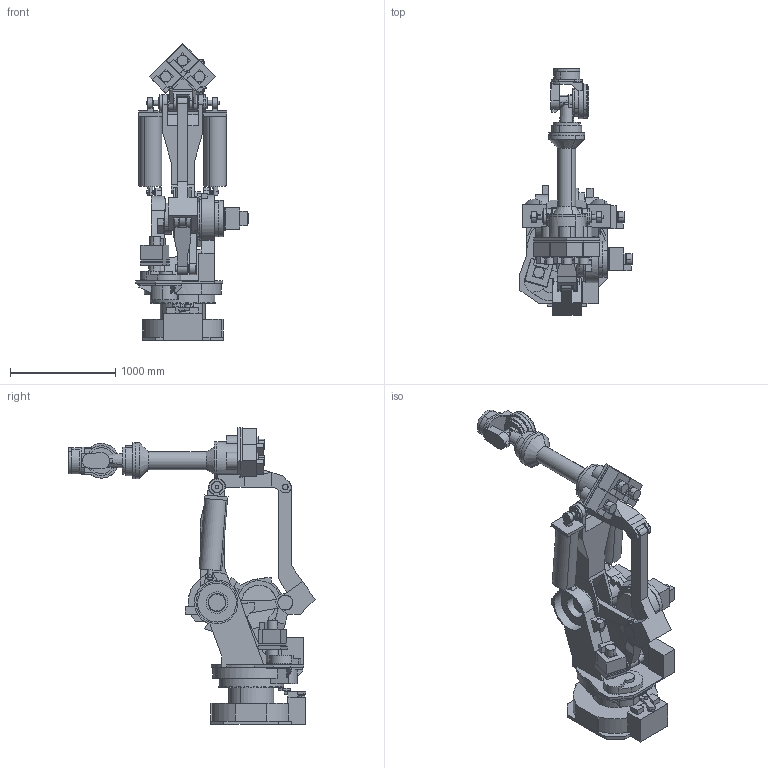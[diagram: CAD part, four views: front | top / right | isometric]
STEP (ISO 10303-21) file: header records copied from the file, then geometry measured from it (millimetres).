
FILE_DESCRIPTION(('CATIA V5 STEP Exchange'),'2;1');
FILE_NAME('G:\【K-ROSET】\K-ROSET_モデル\ロボット\※ロボット\※M\MX500N-A001\MX500N_簡素化\MX500N catiaASSY.stp','2013-05-07T06:48:09+00:00',('none'),('none'),'CATIA Version 5 Release 20 SP 4 (IN-10)','CATIA V5 STEP AP203','none');
FILE_SCHEMA(('CONFIG_CONTROL_DESIGN'));
Length unit declared in the file: millimetre
Products named in the file (1): MX500N catiaASSY
Assembly tree (11 placements, depth 2):
  MX500N catiaASSY
    #58
    #1817
    #15277
    #19395
    #20042
    #21242
    #22824
    #22928
    #24520
    #25387
    #26241
Bounding box: 1066.5 x 2344.34 x 2826.06 mm (x, y, z)
Surface area: 17243021.8 mm2 (no closed solid volume)
Topology: 0 solids, 13 shells, 1053 faces, 2832 edges, 1892 vertices
Faces by surface type: plane 715, cylinder 320, cone 14, bspline 4
Entity records: 31756 total; most frequent: CARTESIAN_POINT 6393, ORIENTED_EDGE 5664, DIRECTION 4287, EDGE_CURVE 2832, VERTEX_POINT 1892, VECTOR 1890, LINE 1890, AXIS2_PLACEMENT_3D 1637
